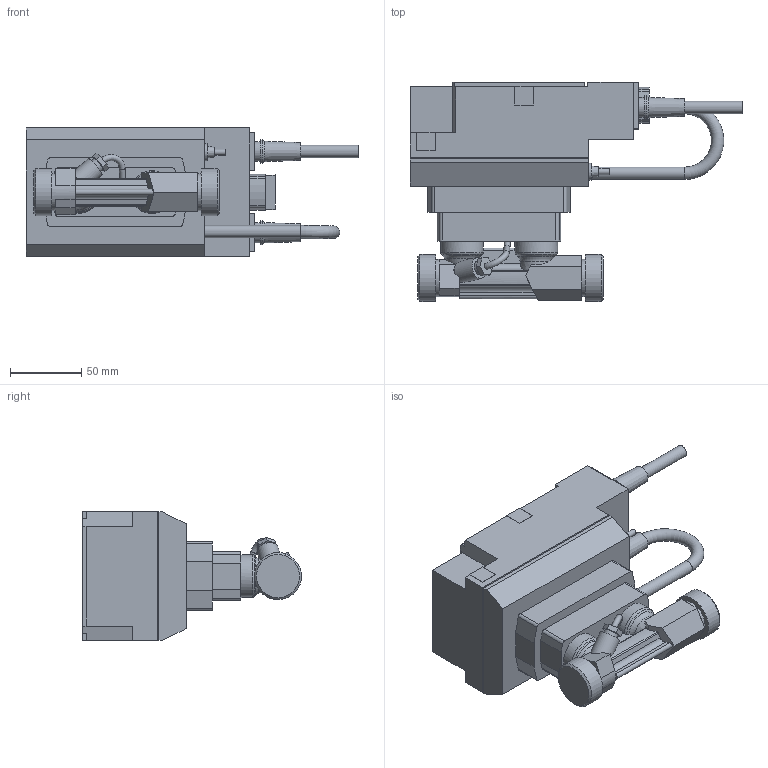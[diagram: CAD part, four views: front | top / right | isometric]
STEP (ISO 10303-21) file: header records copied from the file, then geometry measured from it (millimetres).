
FILE_DESCRIPTION( ( 'STEP AP203' ), '1' );
FILE_NAME( 'C:/Users/nschmidt/Desktop/Belimo-Statustabellen/STEP-Export-09-2021-eu/22PEM-1UDIsometrisch_1.stp', '2021-09-23T10:21:41', ( 'License CC BY-ND 4.0' ), ( 'CADENAS' ), ' ', 'PARTsolutions', ' ' );
FILE_SCHEMA( ( 'CONFIG_CONTROL_DESIGN' ) );
Length unit declared in the file: millimetre
Products named in the file (2): _22PEM-1UD_2
Bounding box: 232.75 x 153.5 x 90.2 mm (x, y, z)
Volume: 1151368.3 mm3; surface area: 113589.1 mm2
Topology: 2 solids, 3 shells, 262 faces, 701 edges, 461 vertices
Faces by surface type: plane 187, cylinder 50, cone 14, torus 11
Full cylindrical faces by diameter (mm): 2 x1, 4.2 x2, 8.7 x2, 10 x1, 12 x1, 14 x2, 15 x1, 16.6 x2, 21.5 x1, 26 x2, 30 x2, 33 x2
Entity records: 8330 total; most frequent: CARTESIAN_POINT 1782, ORIENTED_EDGE 1322, DIRECTION 1311, EDGE_CURVE 661, LINE 465, VECTOR 465, VERTEX_POINT 454, AXIS2_PLACEMENT_3D 423
